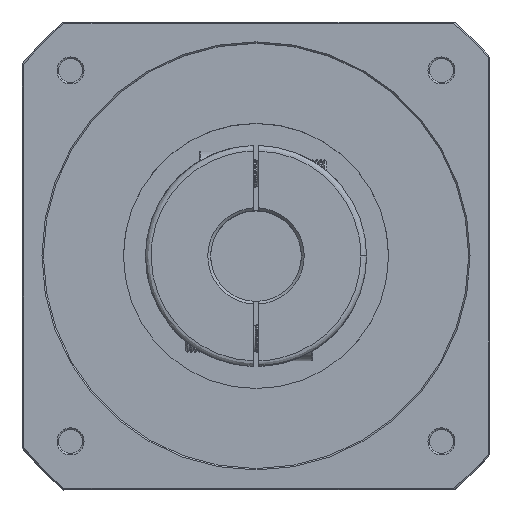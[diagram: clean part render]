
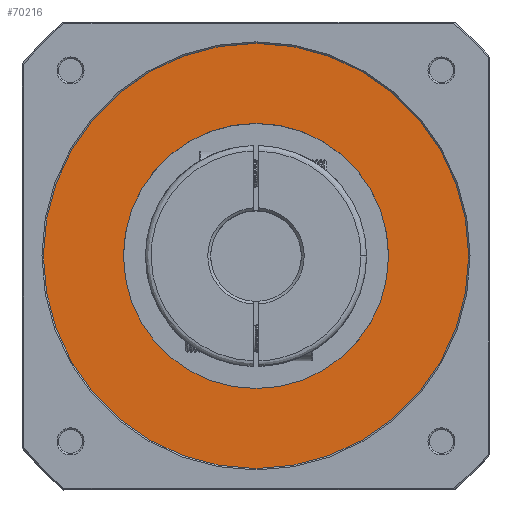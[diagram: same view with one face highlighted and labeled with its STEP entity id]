
A CAD part, top view. The second image highlights one B-rep face of the part: STEP entity #70216.
In plain terms, the highlighted planar face has unit normal (0, 0, -1).
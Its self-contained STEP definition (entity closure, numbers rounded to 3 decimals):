
#254 = FACE_OUTER_BOUND ( 'NONE', #78707, .T. ) ;
#2107 = EDGE_CURVE ( 'NONE', #47674, #73457, #78873, .T. ) ;
#2332 = CARTESIAN_POINT ( 'NONE',  ( 0., 0., 285.5 ) ) ;
#4259 = CARTESIAN_POINT ( 'NONE',  ( -75., 0., 285.5 ) ) ;
#6435 = ORIENTED_EDGE ( 'NONE', *, *, #70740, .T. ) ;
#8150 = DIRECTION ( 'NONE',  ( 0., 0., 1. ) ) ;
#9277 = ORIENTED_EDGE ( 'NONE', *, *, #2107, .T. ) ;
#9344 = DIRECTION ( 'NONE',  ( 1., 0., 0. ) ) ;
#9386 = CARTESIAN_POINT ( 'NONE',  ( 0., 0., 285.5 ) ) ;
#12857 = CIRCLE ( 'NONE', #69377, 46.75 ) ;
#12928 = CARTESIAN_POINT ( 'NONE',  ( 75., 0., 285.5 ) ) ;
#13972 = AXIS2_PLACEMENT_3D ( 'NONE', #2332, #51239, #9344 ) ;
#16112 = CARTESIAN_POINT ( 'NONE',  ( -75.9, -75.9, 285.5 ) ) ;
#16477 = DIRECTION ( 'NONE',  ( -1., 0., 0. ) ) ;
#23118 = DIRECTION ( 'NONE',  ( 1., 0., 0. ) ) ;
#29462 = CARTESIAN_POINT ( 'NONE',  ( 46.75, 0., 285.5 ) ) ;
#30880 = FACE_BOUND ( 'NONE', #38304, .T. ) ;
#35537 = AXIS2_PLACEMENT_3D ( 'NONE', #50074, #8150, #57088 ) ;
#36167 = DIRECTION ( 'NONE',  ( 0., 0., -1. ) ) ;
#38304 = EDGE_LOOP ( 'NONE', ( #85835, #6435 ) ) ;
#44138 = CIRCLE ( 'NONE', #90935, 75. ) ;
#45723 = EDGE_CURVE ( 'NONE', #73457, #47674, #44138, .T. ) ;
#47674 = VERTEX_POINT ( 'NONE', #12928 ) ;
#50074 = CARTESIAN_POINT ( 'NONE',  ( 0., 0., 285.5 ) ) ;
#51239 = DIRECTION ( 'NONE',  ( 0., 0., -1. ) ) ;
#55379 = ORIENTED_EDGE ( 'NONE', *, *, #45723, .T. ) ;
#57088 = DIRECTION ( 'NONE',  ( -1., 0., 0. ) ) ;
#58337 = DIRECTION ( 'NONE',  ( 0., 0., 1. ) ) ;
#62017 = CARTESIAN_POINT ( 'NONE',  ( -46.75, 0., 285.5 ) ) ;
#64409 = PLANE ( 'NONE',  #67151 ) ;
#65019 = DIRECTION ( 'NONE',  ( 0., 0., 1. ) ) ;
#67151 = AXIS2_PLACEMENT_3D ( 'NONE', #16112, #65019, #23118 ) ;
#69377 = AXIS2_PLACEMENT_3D ( 'NONE', #9386, #58337, #16477 ) ;
#70216 = ADVANCED_FACE ( 'NONE', ( #30880, #254 ), #64409, .F. ) ;
#70740 = EDGE_CURVE ( 'NONE', #85694, #73593, #87889, .T. ) ;
#73457 = VERTEX_POINT ( 'NONE', #4259 ) ;
#73593 = VERTEX_POINT ( 'NONE', #62017 ) ;
#78175 = CARTESIAN_POINT ( 'NONE',  ( 0., 0., 285.5 ) ) ;
#78707 = EDGE_LOOP ( 'NONE', ( #9277, #55379 ) ) ;
#78873 = CIRCLE ( 'NONE', #13972, 75. ) ;
#85276 = DIRECTION ( 'NONE',  ( 1., 0., 0. ) ) ;
#85694 = VERTEX_POINT ( 'NONE', #29462 ) ;
#85835 = ORIENTED_EDGE ( 'NONE', *, *, #88297, .T. ) ;
#87889 = CIRCLE ( 'NONE', #35537, 46.75 ) ;
#88297 = EDGE_CURVE ( 'NONE', #73593, #85694, #12857, .T. ) ;
#90935 = AXIS2_PLACEMENT_3D ( 'NONE', #78175, #36167, #85276 ) ;
